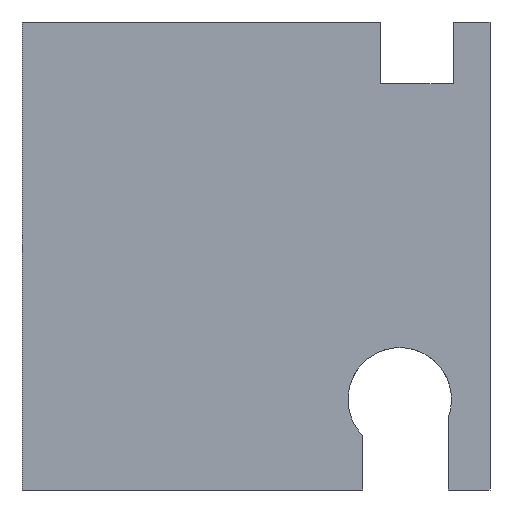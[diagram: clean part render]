
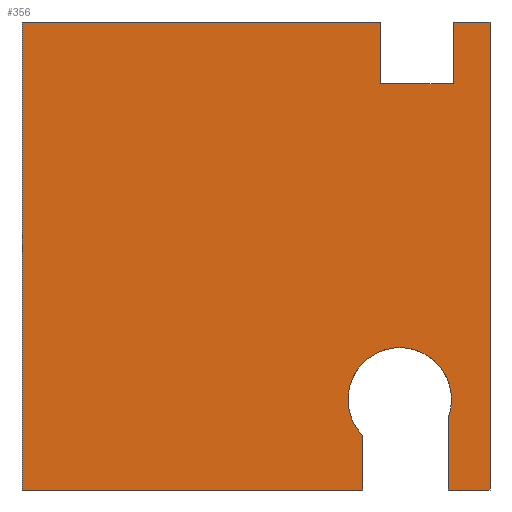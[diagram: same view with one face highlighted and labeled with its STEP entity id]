
A CAD part, left-side view. The second image highlights one B-rep face of the part: STEP entity #356.
In plain terms, the highlighted planar face has unit normal (-1, 0, 0).
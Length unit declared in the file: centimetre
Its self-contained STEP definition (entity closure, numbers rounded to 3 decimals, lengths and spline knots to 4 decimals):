
#18 = DIRECTION ( 'NONE',  ( 0., 0., -1. ) ) ;
#22 = ORIENTED_EDGE ( 'NONE', *, *, #1472, .F. ) ;
#33 = CARTESIAN_POINT ( 'NONE',  ( 0., 1000., 0. ) ) ;
#46 = EDGE_CURVE ( 'NONE', #922, #465, #1154, .T. ) ;
#65 = ORIENTED_EDGE ( 'NONE', *, *, #1560, .F. ) ;
#113 = EDGE_CURVE ( 'NONE', #1493, #434, #740, .T. ) ;
#119 = ORIENTED_EDGE ( 'NONE', *, *, #584, .F. ) ;
#142 = PLANE ( 'NONE',  #1182 ) ;
#149 = CIRCLE ( 'NONE', #1631, 110.6482 ) ;
#153 = VECTOR ( 'NONE', #253, 100. ) ;
#162 = DIRECTION ( 'NONE',  ( 0., 0., 1. ) ) ;
#171 = DIRECTION ( 'NONE',  ( 0., -1., 0. ) ) ;
#173 = EDGE_LOOP ( 'NONE', ( #65, #849, #22, #492, #1398, #719, #1582, #1523, #1553, #1205, #250, #119 ) ) ;
#180 = CARTESIAN_POINT ( 'NONE',  ( 0., 272.0152, 0. ) ) ;
#182 = VERTEX_POINT ( 'NONE', #890 ) ;
#188 = LINE ( 'NONE', #180, #1395 ) ;
#190 = CARTESIAN_POINT ( 'NONE',  ( 0., 89.2722, 0. ) ) ;
#210 = VECTOR ( 'NONE', #1126, 100. ) ;
#236 = VERTEX_POINT ( 'NONE', #433 ) ;
#250 = ORIENTED_EDGE ( 'NONE', *, *, #1045, .F. ) ;
#253 = DIRECTION ( 'NONE',  ( 0., -1., 0. ) ) ;
#268 = CARTESIAN_POINT ( 'NONE',  ( 0., 272.0152, 0. ) ) ;
#278 = FACE_OUTER_BOUND ( 'NONE', #173, .T. ) ;
#286 = CARTESIAN_POINT ( 'NONE',  ( 0., 89.2722, 0. ) ) ;
#321 = DIRECTION ( 'NONE',  ( 0., -1., 0. ) ) ;
#324 = CARTESIAN_POINT ( 'NONE',  ( 0., 1000., 1000. ) ) ;
#341 = LINE ( 'NONE', #1064, #1213 ) ;
#343 = EDGE_CURVE ( 'NONE', #1526, #1493, #149, .T. ) ;
#347 = DIRECTION ( 'NONE',  ( 0., -1., 0. ) ) ;
#356 = ADVANCED_FACE ( 'NONE', ( #278 ), #142, .F. ) ;
#363 = VERTEX_POINT ( 'NONE', #268 ) ;
#433 = CARTESIAN_POINT ( 'NONE',  ( 0., 78.7059, 1000. ) ) ;
#434 = VERTEX_POINT ( 'NONE', #190 ) ;
#453 = DIRECTION ( 'NONE',  ( 0., 0., -1. ) ) ;
#465 = VERTEX_POINT ( 'NONE', #33 ) ;
#492 = ORIENTED_EDGE ( 'NONE', *, *, #46, .T. ) ;
#569 = CARTESIAN_POINT ( 'NONE',  ( 0., 1000., 1000. ) ) ;
#584 = EDGE_CURVE ( 'NONE', #1788, #236, #648, .T. ) ;
#610 = EDGE_CURVE ( 'NONE', #434, #182, #1628, .T. ) ;
#636 = CARTESIAN_POINT ( 'NONE',  ( 0., 272.0152, 116.2398 ) ) ;
#648 = LINE ( 'NONE', #1491, #1085 ) ;
#659 = VERTEX_POINT ( 'NONE', #1670 ) ;
#719 = ORIENTED_EDGE ( 'NONE', *, *, #998, .T. ) ;
#734 = CARTESIAN_POINT ( 'NONE',  ( 0., 192.8503, 193.544 ) ) ;
#740 = LINE ( 'NONE', #286, #1148 ) ;
#761 = CARTESIAN_POINT ( 'NONE',  ( 0., 1000., 0. ) ) ;
#804 = VECTOR ( 'NONE', #347, 100. ) ;
#807 = EDGE_CURVE ( 'NONE', #659, #182, #1489, .T. ) ;
#827 = CARTESIAN_POINT ( 'NONE',  ( 0., 233.7021, 1000. ) ) ;
#849 = ORIENTED_EDGE ( 'NONE', *, *, #1901, .F. ) ;
#883 = DIRECTION ( 'NONE',  ( 0., 0., -1. ) ) ;
#884 = DIRECTION ( 'NONE',  ( 0., 0., -1. ) ) ;
#890 = CARTESIAN_POINT ( 'NONE',  ( 0., 0., 0. ) ) ;
#905 = LINE ( 'NONE', #1175, #1542 ) ;
#922 = VERTEX_POINT ( 'NONE', #1232 ) ;
#998 = EDGE_CURVE ( 'NONE', #363, #1526, #188, .T. ) ;
#1006 = DIRECTION ( 'NONE',  ( 1., 0., 0. ) ) ;
#1041 = CARTESIAN_POINT ( 'NONE',  ( 0., 1000., 0. ) ) ;
#1045 = EDGE_CURVE ( 'NONE', #236, #659, #1522, .T. ) ;
#1064 = CARTESIAN_POINT ( 'NONE',  ( 0., 78.7059, 867.9767 ) ) ;
#1085 = VECTOR ( 'NONE', #1235, 100. ) ;
#1126 = DIRECTION ( 'NONE',  ( 0., 0., -1. ) ) ;
#1148 = VECTOR ( 'NONE', #883, 100. ) ;
#1154 = LINE ( 'NONE', #569, #210 ) ;
#1174 = DIRECTION ( 'NONE',  ( 0., 0., -1. ) ) ;
#1175 = CARTESIAN_POINT ( 'NONE',  ( 0., 233.7021, 867.9767 ) ) ;
#1182 = AXIS2_PLACEMENT_3D ( 'NONE', #1322, #1480, #1174 ) ;
#1205 = ORIENTED_EDGE ( 'NONE', *, *, #807, .F. ) ;
#1210 = CARTESIAN_POINT ( 'NONE',  ( 0., 89.2722, 154.6259 ) ) ;
#1213 = VECTOR ( 'NONE', #1231, 100. ) ;
#1231 = DIRECTION ( 'NONE',  ( 0., -1., 0. ) ) ;
#1232 = CARTESIAN_POINT ( 'NONE',  ( 0., 1000., 1000. ) ) ;
#1235 = DIRECTION ( 'NONE',  ( 0., 0., 1. ) ) ;
#1276 = CARTESIAN_POINT ( 'NONE',  ( 0., 78.7059, 867.9767 ) ) ;
#1305 = VECTOR ( 'NONE', #18, 100. ) ;
#1322 = CARTESIAN_POINT ( 'NONE',  ( 0., 1000., 1000. ) ) ;
#1380 = EDGE_CURVE ( 'NONE', #465, #363, #1764, .T. ) ;
#1383 = CARTESIAN_POINT ( 'NONE',  ( 0., 1000., 1000. ) ) ;
#1395 = VECTOR ( 'NONE', #162, 100. ) ;
#1398 = ORIENTED_EDGE ( 'NONE', *, *, #1380, .T. ) ;
#1407 = VERTEX_POINT ( 'NONE', #1587 ) ;
#1472 = EDGE_CURVE ( 'NONE', #922, #1801, #1794, .T. ) ;
#1480 = DIRECTION ( 'NONE',  ( 1., 0., 0. ) ) ;
#1489 = LINE ( 'NONE', #1498, #1305 ) ;
#1491 = CARTESIAN_POINT ( 'NONE',  ( 0., 78.7059, 867.9767 ) ) ;
#1493 = VERTEX_POINT ( 'NONE', #1210 ) ;
#1498 = CARTESIAN_POINT ( 'NONE',  ( 0., 0., 1000. ) ) ;
#1513 = VECTOR ( 'NONE', #321, 100. ) ;
#1522 = LINE ( 'NONE', #324, #1756 ) ;
#1523 = ORIENTED_EDGE ( 'NONE', *, *, #113, .T. ) ;
#1526 = VERTEX_POINT ( 'NONE', #636 ) ;
#1542 = VECTOR ( 'NONE', #453, 100. ) ;
#1553 = ORIENTED_EDGE ( 'NONE', *, *, #610, .T. ) ;
#1560 = EDGE_CURVE ( 'NONE', #1407, #1788, #341, .T. ) ;
#1582 = ORIENTED_EDGE ( 'NONE', *, *, #343, .T. ) ;
#1587 = CARTESIAN_POINT ( 'NONE',  ( 0., 233.7021, 867.9767 ) ) ;
#1628 = LINE ( 'NONE', #761, #804 ) ;
#1631 = AXIS2_PLACEMENT_3D ( 'NONE', #734, #1006, #884 ) ;
#1670 = CARTESIAN_POINT ( 'NONE',  ( 0., 0., 1000. ) ) ;
#1756 = VECTOR ( 'NONE', #171, 100. ) ;
#1764 = LINE ( 'NONE', #1041, #153 ) ;
#1788 = VERTEX_POINT ( 'NONE', #1276 ) ;
#1794 = LINE ( 'NONE', #1383, #1513 ) ;
#1801 = VERTEX_POINT ( 'NONE', #827 ) ;
#1901 = EDGE_CURVE ( 'NONE', #1801, #1407, #905, .T. ) ;
